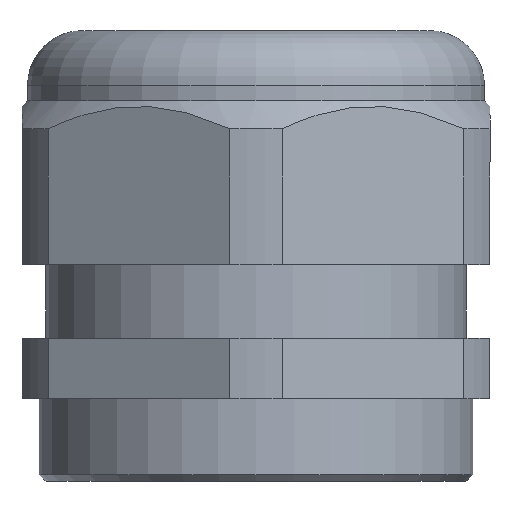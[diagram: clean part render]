
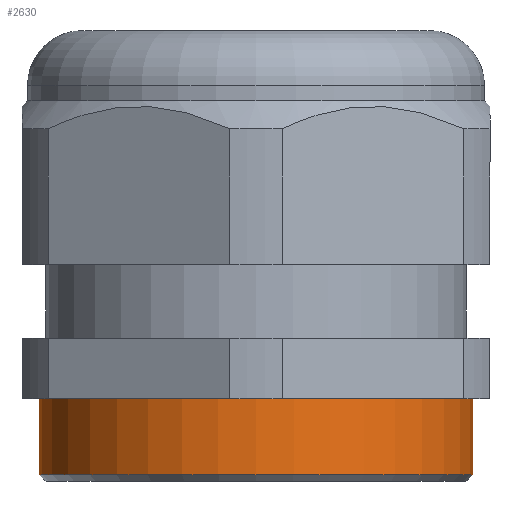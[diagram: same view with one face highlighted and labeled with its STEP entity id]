
A CAD part, front view. The second image highlights one B-rep face of the part: STEP entity #2630.
In plain terms, the highlighted cylindrical face has radius 31.5 mm (diameter 63 mm), a partial arc.
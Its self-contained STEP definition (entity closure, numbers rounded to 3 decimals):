
#679 = ORIENTED_EDGE ( 'NONE', *, *, #2585, .F. ) ;
#1161 = DIRECTION ( 'NONE',  ( -1., 0., 0. ) ) ;
#1624 = CIRCLE ( 'NONE', #1911, 31.5 ) ;
#1742 = CARTESIAN_POINT ( 'NONE',  ( -31.5, 0., 1. ) ) ;
#1761 = DIRECTION ( 'NONE',  ( 0., 0., -1. ) ) ;
#1762 = VECTOR ( 'NONE', #1761, 1000. ) ;
#1763 = CARTESIAN_POINT ( 'NONE',  ( -31.5, 0., 0. ) ) ;
#1764 = LINE ( 'NONE', #1763, #1762 ) ;
#1765 = CARTESIAN_POINT ( 'NONE',  ( 31.5, 0., 12. ) ) ;
#1766 = CARTESIAN_POINT ( 'NONE',  ( -31.5, 0., 12. ) ) ;
#1911 = AXIS2_PLACEMENT_3D ( 'NONE', #2170, #2422, #1161 ) ;
#1925 = DIRECTION ( 'NONE',  ( 0., 0., -1. ) ) ;
#1926 = VECTOR ( 'NONE', #1925, 1000. ) ;
#1927 = CARTESIAN_POINT ( 'NONE',  ( 31.5, 0., 0. ) ) ;
#1928 = LINE ( 'NONE', #1927, #1926 ) ;
#1935 = CARTESIAN_POINT ( 'NONE',  ( 31.5, 0., 1. ) ) ;
#2156 = DIRECTION ( 'NONE',  ( -1., 0., 0. ) ) ;
#2157 = DIRECTION ( 'NONE',  ( 0., 0., -1. ) ) ;
#2158 = CARTESIAN_POINT ( 'NONE',  ( 0., 0., 1. ) ) ;
#2159 = AXIS2_PLACEMENT_3D ( 'NONE', #2158, #2157, #2156 ) ;
#2160 = CIRCLE ( 'NONE', #2159, 31.5 ) ;
#2170 = CARTESIAN_POINT ( 'NONE',  ( 0., 0., 12. ) ) ;
#2226 = DIRECTION ( 'NONE',  ( -1., 0., 0. ) ) ;
#2227 = DIRECTION ( 'NONE',  ( 0., 0., -1. ) ) ;
#2228 = AXIS2_PLACEMENT_3D ( 'NONE', #2230, #2227, #2226 ) ;
#2230 = CARTESIAN_POINT ( 'NONE',  ( 0., 0., 0. ) ) ;
#2231 = CYLINDRICAL_SURFACE ( 'NONE', #2228, 31.5 ) ;
#2232 = FACE_OUTER_BOUND ( 'NONE', #2627, .T. ) ;
#2382 = VERTEX_POINT ( 'NONE', #1742 ) ;
#2401 = VERTEX_POINT ( 'NONE', #1766 ) ;
#2402 = VERTEX_POINT ( 'NONE', #1765 ) ;
#2403 = EDGE_CURVE ( 'NONE', #2401, #2382, #1764, .T. ) ;
#2422 = DIRECTION ( 'NONE',  ( 0., 0., -1. ) ) ;
#2482 = VERTEX_POINT ( 'NONE', #1935 ) ;
#2490 = EDGE_CURVE ( 'NONE', #2402, #2482, #1928, .T. ) ;
#2585 = EDGE_CURVE ( 'NONE', #2482, #2382, #2160, .T. ) ;
#2622 = ORIENTED_EDGE ( 'NONE', *, *, #2403, .T. ) ;
#2625 = EDGE_CURVE ( 'NONE', #2402, #2401, #1624, .T. ) ;
#2627 = EDGE_LOOP ( 'NONE', ( #2629, #2633, #2622, #679 ) ) ;
#2629 = ORIENTED_EDGE ( 'NONE', *, *, #2490, .F. ) ;
#2630 = ADVANCED_FACE ( 'NONE', ( #2232 ), #2231, .T. ) ;
#2633 = ORIENTED_EDGE ( 'NONE', *, *, #2625, .T. ) ;
